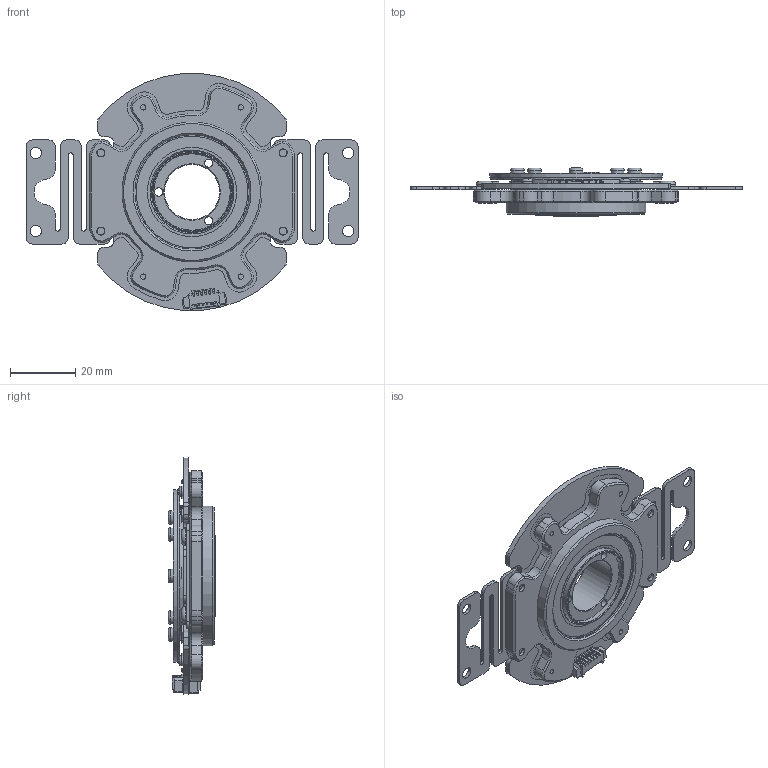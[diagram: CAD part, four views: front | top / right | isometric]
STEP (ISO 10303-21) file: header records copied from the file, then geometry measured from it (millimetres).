
FILE_DESCRIPTION(/* description */ (''),/* implementation_level */ '2;1');
FILE_NAME(/* name */ 'EAS-006A out.stp',/* time_stamp */ '2024-08-26T18:23:14+08:00',/* author */ (''),/* organization */ (''),/* preprocessor_version */ 'ST-DEVELOPER v15',/* originating_system */ 'SIEMENS PLM Software NX 8.5',/* authorisation */ '');
FILE_SCHEMA (('AUTOMOTIVE_DESIGN { 1 0 10303 214 3 1 1 1 }'));
Products named in the file (1): LeiX1FB07103tm9n
Bounding box: 102 x 14.7 x 72.76 mm (x, y, z)
Volume: 24757.9 mm3; surface area: 23489.6 mm2
Topology: 2 solids, 19 shells, 2042 faces, 5703 edges, 3788 vertices
Faces by surface type: plane 1500, cylinder 384, cone 132, torus 20, bspline 6
Full cylindrical faces by diameter (mm): 1.6 x4, 2 x4, 2.05 x8, 2.2 x4, 2.5 x18, 3 x14, 3.05 x4, 3.3 x4, 3.5 x4, 4 x4, 4.2 x8, 5.2 x4, 17 x1, 23.5 x1, 24.9 x1, 25 x1, 27.4 x2, 30.03 x1, 30.04 x1, 34.3 x2, 35.2 x1, 37 x2, 39.5 x1, 40 x1, 40.5 x2, 43 x1, 52.5 x1, 53 x1
Entity records: 68839 total; most frequent: CARTESIAN_POINT 15776, ORIENTED_EDGE 10936, DIRECTION 10351, EDGE_CURVE 5468, LINE 4387, VECTOR 4387, VERTEX_POINT 3710, AXIS2_PLACEMENT_3D 2982
